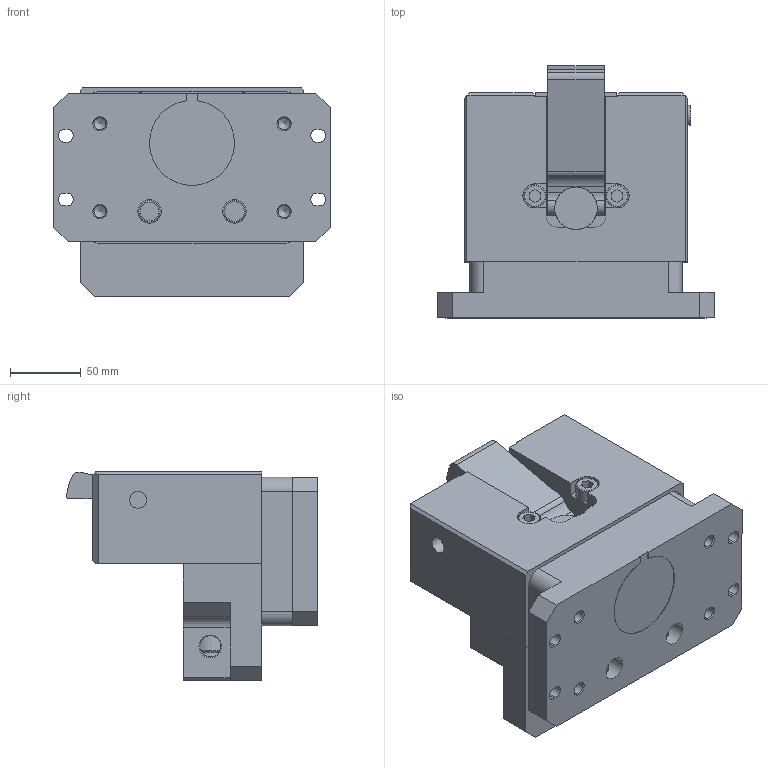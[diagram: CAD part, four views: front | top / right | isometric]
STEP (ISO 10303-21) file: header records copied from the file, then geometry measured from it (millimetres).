
FILE_DESCRIPTION (( 'STEP AP203' ), '1' );
FILE_NAME ('ASUTEC_ASMR-1000-EW-15.STEP', '2017-09-29T09:17:16', ( '' ), ( '' ), 'SwSTEP 2.0', 'SolidWorks 2015', '' );
FILE_SCHEMA (( 'CONFIG_CONTROL_DESIGN' ));
Length unit declared in the file: metre
Products named in the file (1): ASUTEC_ASMR-1000-EW-15
Bounding box: 195 x 177.78 x 147.4 mm (x, y, z)
Volume: 2059678.5 mm3; surface area: 310107.1 mm2
Topology: 6 solids, 6 shells, 613 faces, 1575 edges, 1041 vertices
Faces by surface type: plane 383, cylinder 148, bspline 55, cone 19, torus 8
Full cylindrical faces by diameter (mm): 5 x2, 6 x2, 7 x2, 8 x2, 8.5 x7, 8.7 x1, 9.4 x1, 10 x8, 11 x4, 12 x4, 13 x1, 14 x3, 15 x6, 16 x2, 16.5 x2, 18 x2, 20 x2, 22.6 x1, 25 x5, 30 x3, 60 x2
Entity records: 21946 total; most frequent: CARTESIAN_POINT 7583, ORIENTED_EDGE 2896, DIRECTION 2758, EDGE_CURVE 1448, LINE 1014, VECTOR 1014, VERTEX_POINT 1007, AXIS2_PLACEMENT_3D 872
